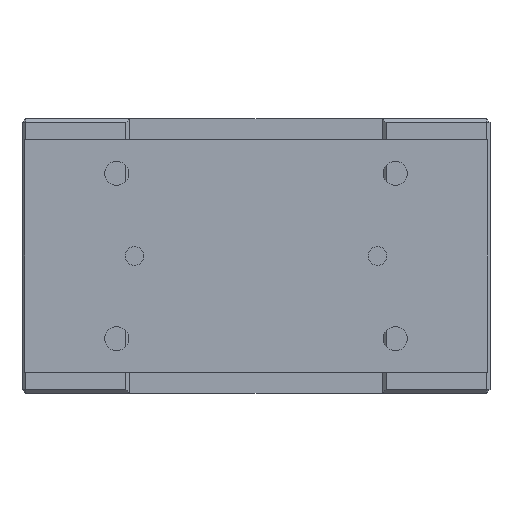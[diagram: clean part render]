
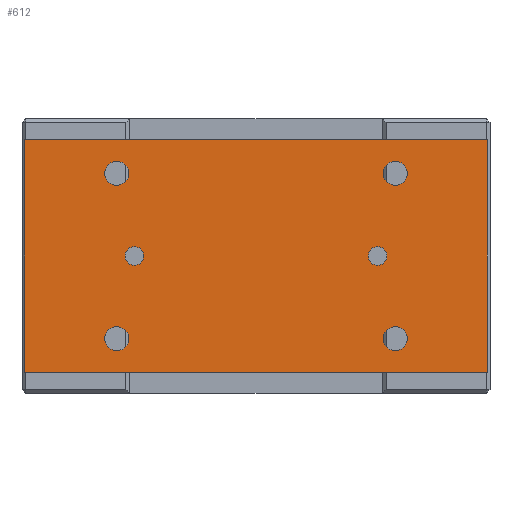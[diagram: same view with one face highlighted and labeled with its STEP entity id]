
A CAD part, left-side view. The second image highlights one B-rep face of the part: STEP entity #612.
In plain terms, the highlighted planar face has unit normal (-1, 0, 0).
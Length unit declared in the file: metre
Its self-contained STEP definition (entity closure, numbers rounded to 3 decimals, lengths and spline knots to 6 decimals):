
#612 = ADVANCED_FACE( '', ( #1382, #1383, #1384, #1385, #1386, #1387, #1388 ), #1389, .T. );
#1382 = FACE_BOUND( '', #2276, .T. );
#1383 = FACE_BOUND( '', #2277, .T. );
#1384 = FACE_BOUND( '', #2278, .T. );
#1385 = FACE_BOUND( '', #2279, .T. );
#1386 = FACE_BOUND( '', #2280, .T. );
#1387 = FACE_BOUND( '', #2281, .T. );
#1388 = FACE_OUTER_BOUND( '', #2282, .T. );
#1389 = PLANE( '', #2283 );
#2276 = EDGE_LOOP( '', ( #3771 ) );
#2277 = EDGE_LOOP( '', ( #3772 ) );
#2278 = EDGE_LOOP( '', ( #3773 ) );
#2279 = EDGE_LOOP( '', ( #3774 ) );
#2280 = EDGE_LOOP( '', ( #3775 ) );
#2281 = EDGE_LOOP( '', ( #3776 ) );
#2282 = EDGE_LOOP( '', ( #3777, #3778, #3779, #3780 ) );
#2283 = AXIS2_PLACEMENT_3D( '', #3781, #3782, #3783 );
#3771 = ORIENTED_EDGE( '', *, *, #4827, .F. );
#3772 = ORIENTED_EDGE( '', *, *, #4694, .T. );
#3773 = ORIENTED_EDGE( '', *, *, #4357, .F. );
#3774 = ORIENTED_EDGE( '', *, *, #4798, .F. );
#3775 = ORIENTED_EDGE( '', *, *, #4817, .F. );
#3776 = ORIENTED_EDGE( '', *, *, #4581, .F. );
#3777 = ORIENTED_EDGE( '', *, *, #4711, .T. );
#3778 = ORIENTED_EDGE( '', *, *, #4748, .T. );
#3779 = ORIENTED_EDGE( '', *, *, #4402, .T. );
#3780 = ORIENTED_EDGE( '', *, *, #4828, .T. );
#3781 = CARTESIAN_POINT( '', ( -0.143, -0.1245, -0.0115 ) );
#3782 = DIRECTION( '', ( -1., 0., 0. ) );
#3783 = DIRECTION( '', ( 0., 0., 1. ) );
#4357 = EDGE_CURVE( '', #5040, #5040, #5041, .T. );
#4402 = EDGE_CURVE( '', #5118, #5116, #5119, .T. );
#4581 = EDGE_CURVE( '', #5402, #5402, #5403, .T. );
#4694 = EDGE_CURVE( '', #5560, #5560, #5561, .T. );
#4711 = EDGE_CURVE( '', #5585, #5583, #5586, .T. );
#4748 = EDGE_CURVE( '', #5583, #5118, #5637, .T. );
#4798 = EDGE_CURVE( '', #5702, #5702, #5703, .T. );
#4817 = EDGE_CURVE( '', #5729, #5729, #5730, .T. );
#4827 = EDGE_CURVE( '', #5742, #5742, #5743, .T. );
#4828 = EDGE_CURVE( '', #5116, #5585, #5744, .T. );
#5040 = VERTEX_POINT( '', #5997 );
#5041 = CIRCLE( '', #5998, 0.0065 );
#5116 = VERTEX_POINT( '', #6098 );
#5118 = VERTEX_POINT( '', #6101 );
#5119 = LINE( '', #6102, #6103 );
#5402 = VERTEX_POINT( '', #6642 );
#5403 = CIRCLE( '', #6643, 0.0065 );
#5560 = VERTEX_POINT( '', #6868 );
#5561 = CIRCLE( '', #6869, 0.005 );
#5583 = VERTEX_POINT( '', #6894 );
#5585 = VERTEX_POINT( '', #6897 );
#5586 = LINE( '', #6898, #6899 );
#5637 = LINE( '', #6970, #6971 );
#5702 = VERTEX_POINT( '', #7052 );
#5703 = CIRCLE( '', #7053, 0.0065 );
#5729 = VERTEX_POINT( '', #7083 );
#5730 = CIRCLE( '', #7084, 0.0065 );
#5742 = VERTEX_POINT( '', #7132 );
#5743 = CIRCLE( '', #7133, 0.005 );
#5744 = LINE( '', #7134, #7135 );
#5997 = CARTESIAN_POINT( '', ( -0.143, -0.075, -0.112 ) );
#5998 = AXIS2_PLACEMENT_3D( '', #7388, #7389, #7390 );
#6098 = CARTESIAN_POINT( '', ( -0.143, 0.1245, -0.1365 ) );
#6101 = CARTESIAN_POINT( '', ( -0.143, 0.1245, -0.0115 ) );
#6102 = CARTESIAN_POINT( '', ( -0.143, 0.1245, -0.0115 ) );
#6103 = VECTOR( '', #7441, 1. );
#6642 = CARTESIAN_POINT( '', ( -0.143, 0.075, -0.023 ) );
#6643 = AXIS2_PLACEMENT_3D( '', #7626, #7627, #7628 );
#6868 = CARTESIAN_POINT( '', ( -0.143, 0.0705, -0.074 ) );
#6869 = AXIS2_PLACEMENT_3D( '', #7766, #7767, #7768 );
#6894 = CARTESIAN_POINT( '', ( -0.143, -0.1245, -0.0115 ) );
#6897 = CARTESIAN_POINT( '', ( -0.143, -0.1245, -0.1365 ) );
#6898 = CARTESIAN_POINT( '', ( -0.143, -0.1245, -0.1365 ) );
#6899 = VECTOR( '', #7785, 1. );
#6970 = CARTESIAN_POINT( '', ( -0.143, -0.1245, -0.0115 ) );
#6971 = VECTOR( '', #7815, 1. );
#7052 = CARTESIAN_POINT( '', ( -0.143, 0.075, -0.112 ) );
#7053 = AXIS2_PLACEMENT_3D( '', #7868, #7869, #7870 );
#7083 = CARTESIAN_POINT( '', ( -0.143, -0.075, -0.023 ) );
#7084 = AXIS2_PLACEMENT_3D( '', #7893, #7894, #7895 );
#7132 = CARTESIAN_POINT( '', ( -0.143, -0.0705, -0.074 ) );
#7133 = AXIS2_PLACEMENT_3D( '', #7899, #7900, #7901 );
#7134 = CARTESIAN_POINT( '', ( -0.143, 0.1245, -0.1365 ) );
#7135 = VECTOR( '', #7902, 1. );
#7388 = CARTESIAN_POINT( '', ( -0.143, -0.075, -0.1185 ) );
#7389 = DIRECTION( '', ( -1., 0., 0. ) );
#7390 = DIRECTION( '', ( 0., 0., 1. ) );
#7441 = DIRECTION( '', ( 0., 0., -1. ) );
#7626 = CARTESIAN_POINT( '', ( -0.143, 0.075, -0.0295 ) );
#7627 = DIRECTION( '', ( -1., 0., 0. ) );
#7628 = DIRECTION( '', ( 0., 0., 1. ) );
#7766 = CARTESIAN_POINT( '', ( -0.143, 0.0655, -0.074 ) );
#7767 = DIRECTION( '', ( 1., 0., 0. ) );
#7768 = DIRECTION( '', ( 0., 1., 0. ) );
#7785 = DIRECTION( '', ( 0., 0., 1. ) );
#7815 = DIRECTION( '', ( 0., 1., 0. ) );
#7868 = CARTESIAN_POINT( '', ( -0.143, 0.075, -0.1185 ) );
#7869 = DIRECTION( '', ( -1., 0., 0. ) );
#7870 = DIRECTION( '', ( 0., 0., 1. ) );
#7893 = CARTESIAN_POINT( '', ( -0.143, -0.075, -0.0295 ) );
#7894 = DIRECTION( '', ( -1., 0., 0. ) );
#7895 = DIRECTION( '', ( 0., 0., 1. ) );
#7899 = CARTESIAN_POINT( '', ( -0.143, -0.0655, -0.074 ) );
#7900 = DIRECTION( '', ( -1., 0., 0. ) );
#7901 = DIRECTION( '', ( 0., -1., 0. ) );
#7902 = DIRECTION( '', ( 0., -1., 0. ) );
